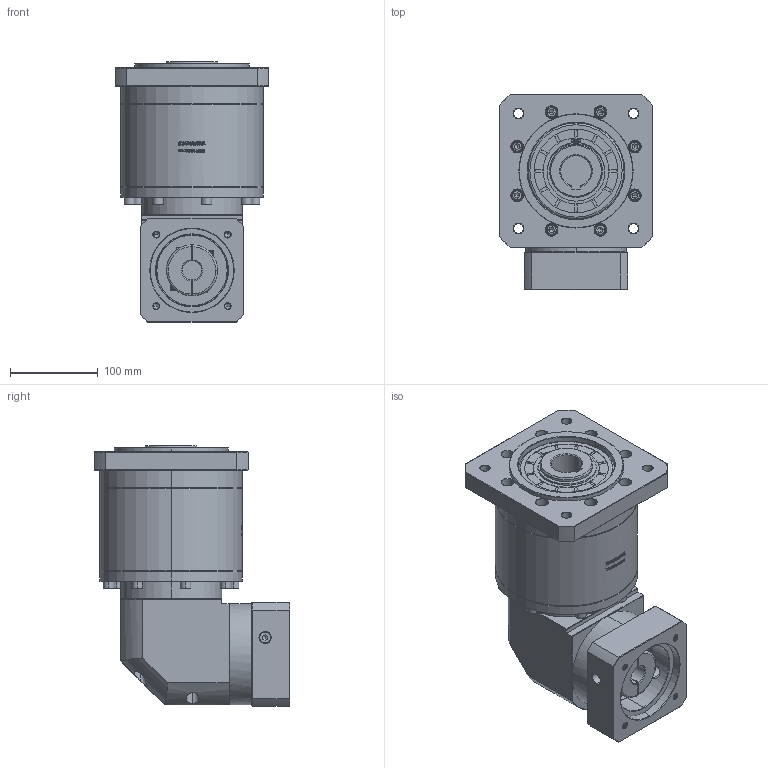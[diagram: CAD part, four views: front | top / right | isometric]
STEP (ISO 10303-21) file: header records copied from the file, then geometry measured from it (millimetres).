
FILE_DESCRIPTION (( 'STEP AP214' ), '1' );
FILE_NAME ('ZFR160A-K35-L3-22-95-115-M8.step', '2023-03-25T02:00:43', ( '' ), ( '' ), 'SwSTEP 2.0', 'SolidWorks 2016', '' );
FILE_SCHEMA (( 'AUTOMOTIVE_DESIGN' ));
Length unit declared in the file: millimetre
Products named in the file (1): ZFR160A-K35-L3-22-95-115-M8
Bounding box: 175 x 222.4 x 296.2 mm (x, y, z)
Volume: 5486149.3 mm3; surface area: 353728 mm2
Topology: 6 solids, 6 shells, 2725 faces, 7110 edges, 4557 vertices
Faces by surface type: plane 1366, bspline 491, cylinder 459, cone 365, torus 44
Entity records: 143597 total; most frequent: CARTESIAN_POINT 50855, ORIENTED_EDGE 14116, DIRECTION 11184, EDGE_CURVE 7058, VERTEX_POINT 4557, LINE 4444, VECTOR 4444, AXIS2_PLACEMENT_3D 3370
